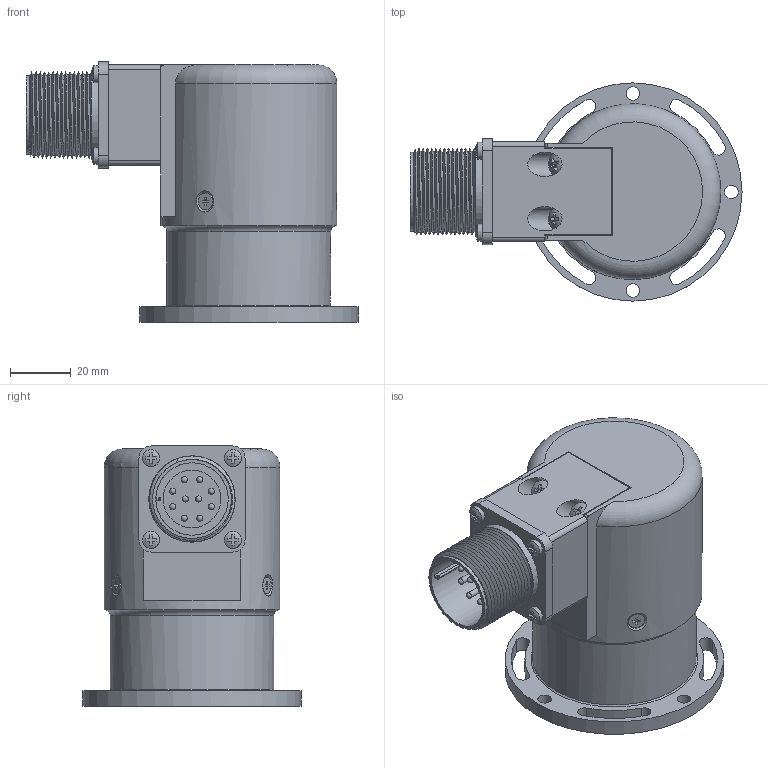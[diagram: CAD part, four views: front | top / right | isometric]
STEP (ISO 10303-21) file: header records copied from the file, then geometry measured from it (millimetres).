
FILE_DESCRIPTION( ( 'Unknown' ), '1' );
FILE_NAME( 'C:/Users/malfermoa/Desktop/step/EL_72A_albero 10 uscita MR.stp', 'Unknown', ( 'Unknown' ), ( 'Unknown' ), 'PSStep 15.0.49', 'Unknown', ' ' );
FILE_SCHEMA( ( 'AUTOMOTIVE_DESIGN { 1 0 10303 214 1 1 1 1 }' ) );
Length unit declared in the file: millimetre
Products named in the file (11): 41330066A1
Bounding box: 109.5 x 72 x 85.8 mm (x, y, z)
Volume: 118576.4 mm3; surface area: 70610 mm2
Topology: 11 solids, 23 shells, 808 faces, 2095 edges, 1325 vertices
Faces by surface type: plane 302, cylinder 264, torus 80, bspline 72, cone 58, sphere 32
Full cylindrical faces by diameter (mm): 2 x22, 2.013 x2, 2.2 x12, 2.459 x6, 2.5 x4, 2.6 x10, 3 x6, 3.5 x3, 4.5 x6, 5.6 x7, 6 x1, 7 x1, 7.232 x2, 8 x2, 10 x10, 10.5 x1, 11 x1, 12 x1, 13.8 x1, 14.5 x2, 19 x1, 21.2 x2, 21.998 x2, 22 x2, 23 x1, 23.9 x1, 25.2 x1, 26 x15, 28.4 x1, 45 x1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
Entity records: 47929 total; most frequent: CARTESIAN_POINT 24792, DIRECTION 3336, ORIENTED_EDGE 3334, EDGE_CURVE 1667, AXIS2_PLACEMENT_3D 1333, VERTEX_POINT 1165, EDGE_LOOP 1031, FACE_OUTER_BOUND 890
